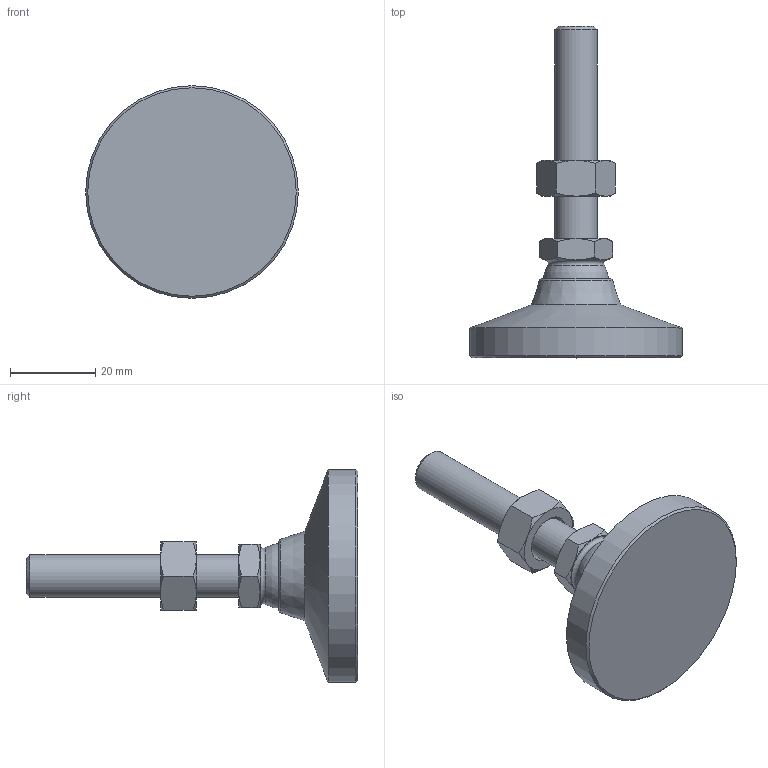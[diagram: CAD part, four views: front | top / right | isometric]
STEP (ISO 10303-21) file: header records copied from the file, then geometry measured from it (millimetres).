
FILE_DESCRIPTION( ( 'STEP AP214' ), ' ' );
FILE_NAME( 'O:/ganter_2015/teil_2/2_5/gn343_2/gn343_2_os/Levelling foot with threaded stud GN 343.2-50-M10-50-OS-(0).stp', '2015-10-26T09:07:41', ( '' ), ( '' ), ' ', 'PARTsolutions', ' ' );
FILE_SCHEMA( ( 'AUTOMOTIVE_DESIGN { 1 0 10303 214 1 1 1 1 }' ) );
Length unit declared in the file: millimetre
Products named in the file (4): Levelling foot with threaded stud GN 343.2-50-M10-50-OS-(0); _Levelling foot with threaded stud GN 343.2-50-M10-50-OS-(0)_foot; _Levelling foot with threaded stud GN 343.2-50-M10-50-OS-(0)_screw; _Stainless Steel-Levelling feet GN 343.2-50-M10-50-OS-(0)_nut
Assembly tree (3 placements, depth 2):
  Levelling foot with threaded stud GN 343.2-50-M10-50-OS-(0)
    _Levelling foot with threaded stud GN 343.2-50-M10-50-OS-(0)_foot
    _Levelling foot with threaded stud GN 343.2-50-M10-50-OS-(0)_screw
    _Stainless Steel-Levelling feet GN 343.2-50-M10-50-OS-(0)_nut
Bounding box: 50 x 78 x 50 mm (x, y, z)
Volume: 28144 mm3; surface area: 9213.4 mm2
Topology: 3 solids, 3 shells, 56 faces, 117 edges, 68 vertices
Faces by surface type: cone 30, plane 19, cylinder 3, torus 2, sphere 2
Full cylindrical faces by diameter (mm): 8.376 x1, 10 x1, 50 x1
Entity records: 2066 total; most frequent: CARTESIAN_POINT 498, DIRECTION 212, ORIENTED_EDGE 200, AXIS2_PLACEMENT_3D 100, EDGE_CURVE 100, EDGE_LOOP 72, VERTEX_POINT 66, FACE_OUTER_BOUND 61
